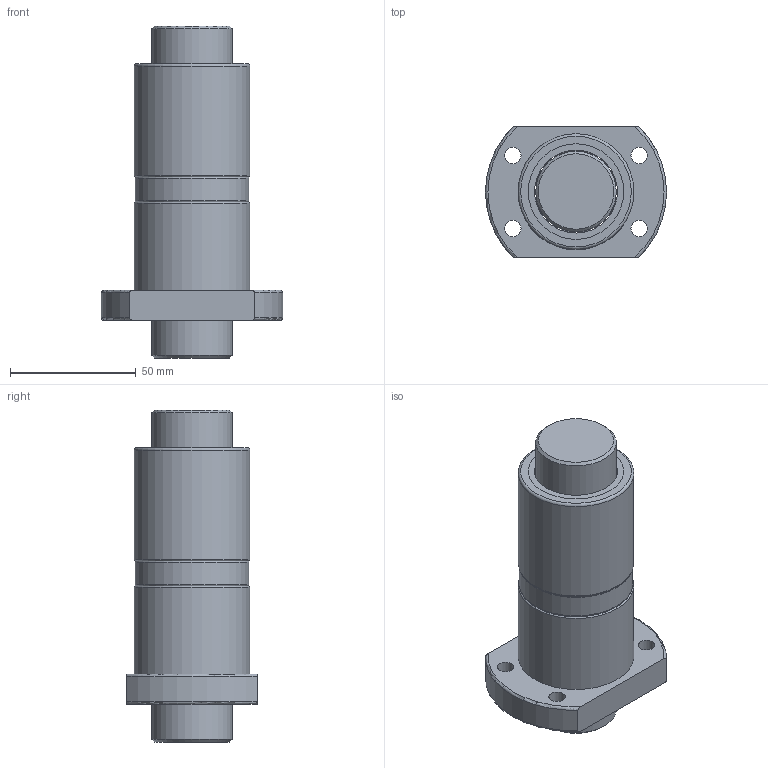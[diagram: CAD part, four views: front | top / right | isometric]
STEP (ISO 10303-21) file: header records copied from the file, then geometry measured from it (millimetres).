
FILE_DESCRIPTION(/* description */ (''),/* implementation_level */ '2;1');
FILE_NAME(/* name */ 'DFI0325T-4-S.stp',/* time_stamp */ '2014-10-27T17:09:04+08:00',/* author */ (''),/* organization */ (''),/* preprocessor_version */ 'ST-DEVELOPER v11',/* originating_system */ 'SIEMENS UGS NX 6.0',/* authorisation */ '');
FILE_SCHEMA (('CONFIG_CONTROL_DESIGN'));
Length unit declared in the file: millimetre
Products named in the file (1): fann11682tpd
Bounding box: 72 x 52 x 132 mm (x, y, z)
Volume: 205123.6 mm3; surface area: 53847 mm2
Topology: 6 solids, 6 shells, 55 faces, 105 edges, 69 vertices
Faces by surface type: cylinder 23, plane 21, torus 9, cone 2
Full cylindrical faces by diameter (mm): 6.5 x4, 11 x4, 32 x1, 33 x5, 38 x4, 45.168 x1, 46 x2
Entity records: 1483 total; most frequent: CARTESIAN_POINT 342, DIRECTION 236, ORIENTED_EDGE 146, AXIS2_PLACEMENT_3D 114, EDGE_LOOP 108, FACE_BOUND 98, EDGE_CURVE 73, VERTEX_POINT 65
